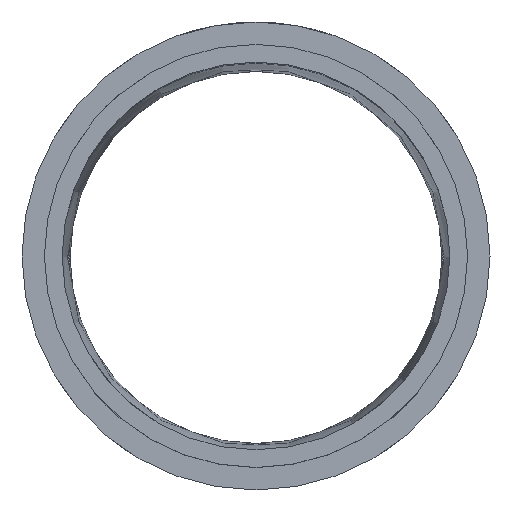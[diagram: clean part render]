
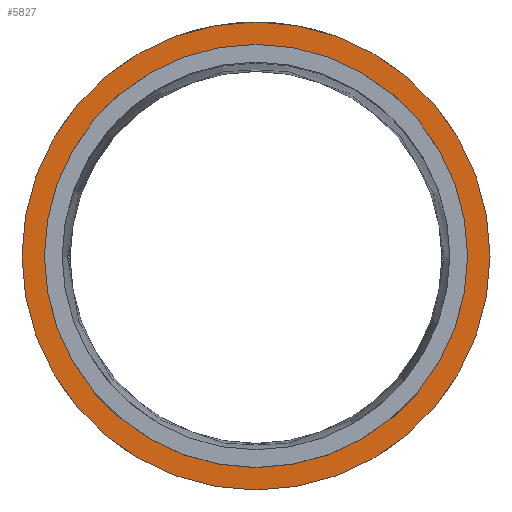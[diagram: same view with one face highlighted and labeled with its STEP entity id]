
A CAD part, top view. The second image highlights one B-rep face of the part: STEP entity #5827.
In plain terms, the highlighted planar face has unit normal (0, 0, 1).
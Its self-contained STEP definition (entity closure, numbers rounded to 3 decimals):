
#5528 = VERTEX_POINT('',#5529);
#5529 = CARTESIAN_POINT('',(37.,0.,144.));
#5535 = EDGE_CURVE('',#5528,#5528,#5536,.T.);
#5536 = CIRCLE('',#5537,37.);
#5537 = AXIS2_PLACEMENT_3D('',#5538,#5539,#5540);
#5538 = CARTESIAN_POINT('',(0.,0.,144.));
#5539 = DIRECTION('',(0.,0.,1.));
#5540 = DIRECTION('',(1.,0.,0.));
#5827 = ADVANCED_FACE('',(#5828,#5831),#5842,.T.);
#5828 = FACE_BOUND('',#5829,.T.);
#5829 = EDGE_LOOP('',(#5830));
#5830 = ORIENTED_EDGE('',*,*,#5535,.T.);
#5831 = FACE_BOUND('',#5832,.T.);
#5832 = EDGE_LOOP('',(#5833));
#5833 = ORIENTED_EDGE('',*,*,#5834,.F.);
#5834 = EDGE_CURVE('',#5835,#5835,#5837,.T.);
#5835 = VERTEX_POINT('',#5836);
#5836 = CARTESIAN_POINT('',(33.45,0.,144.));
#5837 = CIRCLE('',#5838,33.45);
#5838 = AXIS2_PLACEMENT_3D('',#5839,#5840,#5841);
#5839 = CARTESIAN_POINT('',(0.,0.,144.));
#5840 = DIRECTION('',(0.,0.,1.));
#5841 = DIRECTION('',(1.,0.,0.));
#5842 = PLANE('',#5843);
#5843 = AXIS2_PLACEMENT_3D('',#5844,#5845,#5846);
#5844 = CARTESIAN_POINT('',(0.,0.,144.));
#5845 = DIRECTION('',(0.,0.,1.));
#5846 = DIRECTION('',(1.,0.,0.));
